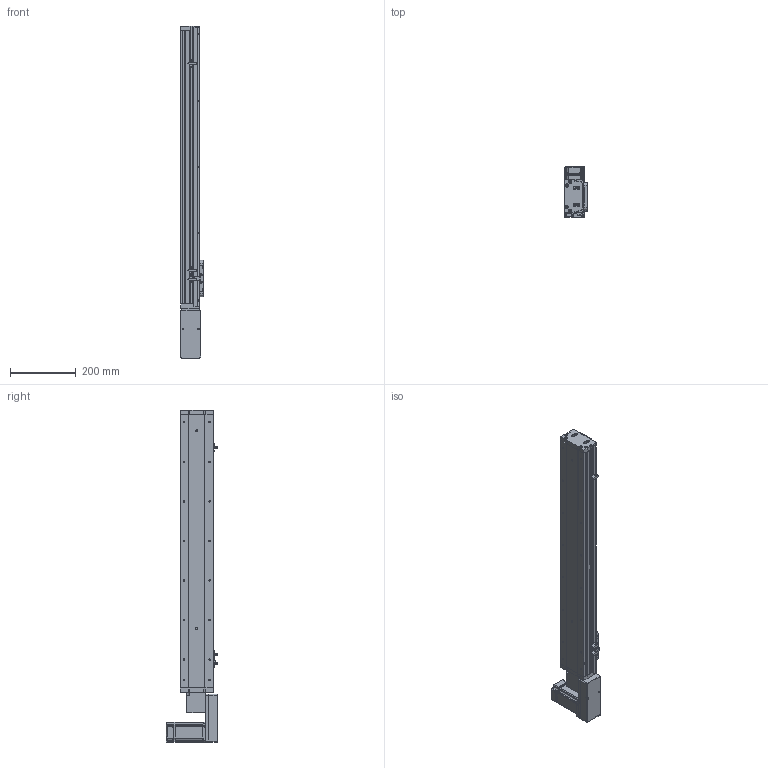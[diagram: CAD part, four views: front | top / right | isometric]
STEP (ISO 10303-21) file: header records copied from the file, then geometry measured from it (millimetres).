
FILE_DESCRIPTION (( 'STEP AP214' ), '1' );
FILE_NAME ('KSD100B-S650-MRB-CR.STEP', '2019-11-13T06:05:08', ( '微软用户' ), ( '微软中国' ), 'SwSTEP 2.0', 'SolidWorks 2014', '' );
FILE_SCHEMA (( 'AUTOMOTIVE_DESIGN' ));
Length unit declared in the file: millimetre
Products named in the file (15): 悵誘欶奻狟殏; KSD100B-S650-MRB-CR; 100宽马达安装板连板上下折丝杆同步带; U倰嫖萇EEㄜSX672; 感应片100宽全封闭; 100宽马达安装板同步带右; MHMD042G1CA_2_03; 100遵鎮湛假蚾啣蜊; 100宽端板同步带全封闭; 100宽滚珠螺姆安装板1防护罩; 100宽滚珠螺姆安装板1; 100遵裔啣揤啣; 100遵裔啣650俴最; 100宽侧板650行程同步带; 100宽底板全封闭650行程同步带
Assembly tree (18 placements, depth 2):
  KSD100B-S650-MRB-CR
    100宽底板全封闭650行程同步带
    100宽侧板650行程同步带  x2
    100遵裔啣650俴最
    100遵裔啣揤啣  x2
    100宽滚珠螺姆安装板1
    100宽滚珠螺姆安装板1防护罩
    100宽端板同步带全封闭
    100遵鎮湛假蚾啣蜊
    100宽马达安装板同步带右
    感应片100宽全封闭
    U倰嫖萇EEㄜSX672  x3
    100宽马达安装板连板上下折丝杆同步带
    悵誘欶奻狟殏
    MHMD042G1CA_2_03
Bounding box: 70 x 156.2 x 1007 mm (x, y, z)
Volume: 1879994.8 mm3; surface area: 847436.5 mm2
Topology: 17 solids, 18 shells, 1729 faces, 4824 edges, 3101 vertices
Faces by surface type: cylinder 769, plane 733, cone 207, bspline 20
Entity records: 61280 total; most frequent: CARTESIAN_POINT 9326, DIRECTION 8378, ORIENTED_EDGE 7748, EDGE_CURVE 3946, AXIS2_PLACEMENT_3D 3019, VERTEX_POINT 2619, LINE 2340, VECTOR 2340
